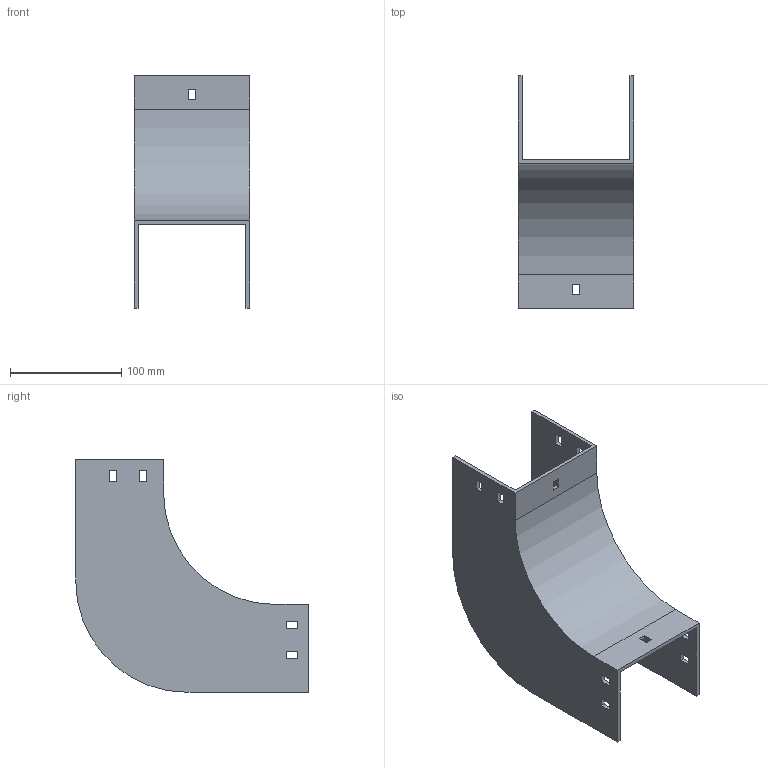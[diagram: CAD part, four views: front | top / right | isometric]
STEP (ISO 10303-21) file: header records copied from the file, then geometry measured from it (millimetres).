
FILE_DESCRIPTION (( 'STEP AP214' ), '1' );
FILE_NAME ('33F1C100.step', '2025-02-21T12:52:46', ( '' ), ( '' ), 'SwSTEP 2.0', 'SolidWorks 2023', '' );
FILE_SCHEMA (( 'AUTOMOTIVE_DESIGN' ));
Length unit declared in the file: millimetre
Products named in the file (1): 33F1C100
Bounding box: 104 x 209 x 209 mm (x, y, z)
Volume: 259729.3 mm3; surface area: 153977 mm2
Topology: 1 solids, 1 shells, 58 faces, 168 edges, 112 vertices
Faces by surface type: plane 54, cylinder 4
Entity records: 1943 total; most frequent: CARTESIAN_POINT 339, ORIENTED_EDGE 336, DIRECTION 294, EDGE_CURVE 168, LINE 160, VECTOR 160, VERTEX_POINT 112, EDGE_LOOP 78
